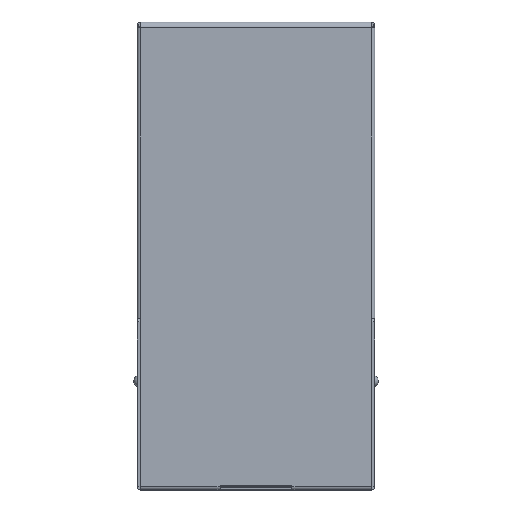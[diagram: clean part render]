
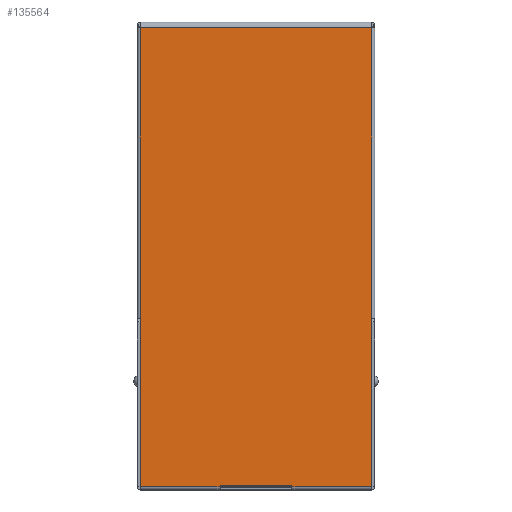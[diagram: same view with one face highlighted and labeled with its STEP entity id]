
A CAD part, top view. The second image highlights one B-rep face of the part: STEP entity #135564.
In plain terms, the highlighted planar face has unit normal (0, 0, 1) as drawn and (0, 0, -1) by its records, which use the part's own axes.
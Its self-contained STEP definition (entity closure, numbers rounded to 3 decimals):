
#131723=DIRECTION('',(0.,-1.,0.));
#131724=VECTOR('',#131723,5.);
#131725=CARTESIAN_POINT('',(-15.95,2.5,0.));
#131726=LINE('',#131725,#131724);
#131727=DIRECTION('',(-1.,0.,0.));
#131728=VECTOR('',#131727,0.1);
#131729=CARTESIAN_POINT('',(-15.95,-2.5,0.));
#131730=LINE('',#131729,#131728);
#131731=DIRECTION('',(-1.,0.,0.));
#131732=VECTOR('',#131731,11.7);
#131733=CARTESIAN_POINT('',(-4.35,8.05,0.));
#131734=LINE('',#131733,#131732);
#131743=DIRECTION('',(-1.,0.,0.));
#131744=VECTOR('',#131743,0.1);
#131745=CARTESIAN_POINT('',(-15.95,2.5,0.));
#131746=LINE('',#131745,#131744);
#131760=DIRECTION('',(0.,1.,0.));
#131761=VECTOR('',#131760,5.55);
#131762=CARTESIAN_POINT('',(-16.05,2.5,0.));
#131763=LINE('',#131762,#131761);
#131968=DIRECTION('',(0.,1.,0.));
#131969=VECTOR('',#131968,5.55);
#131970=CARTESIAN_POINT('',(-16.05,-8.05,0.));
#131971=LINE('',#131970,#131969);
#131981=DIRECTION('',(-1.,0.,0.));
#131982=VECTOR('',#131981,11.7);
#131983=CARTESIAN_POINT('',(-4.35,-8.05,0.));
#131984=LINE('',#131983,#131982);
#134190=DIRECTION('',(1.,0.,0.));
#134191=VECTOR('',#134190,20.2);
#134192=CARTESIAN_POINT('',(-4.35,8.05,0.));
#134193=LINE('',#134192,#134191);
#134300=DIRECTION('',(0.,-1.,0.));
#134301=VECTOR('',#134300,16.1);
#134302=CARTESIAN_POINT('',(15.85,8.05,0.));
#134303=LINE('',#134302,#134301);
#134331=DIRECTION('',(-1.,0.,0.));
#134332=VECTOR('',#134331,20.2);
#134333=CARTESIAN_POINT('',(15.85,-8.05,0.));
#134334=LINE('',#134333,#134332);
#134731=CARTESIAN_POINT('',(-15.95,2.5,0.));
#134732=CARTESIAN_POINT('',(-15.95,-2.5,0.));
#134733=VERTEX_POINT('',#134731);
#134734=VERTEX_POINT('',#134732);
#134735=CARTESIAN_POINT('',(-16.05,-2.5,0.));
#134736=VERTEX_POINT('',#134735);
#134737=CARTESIAN_POINT('',(-16.05,-8.05,0.));
#134738=VERTEX_POINT('',#134737);
#134739=CARTESIAN_POINT('',(-4.35,-8.05,0.));
#134740=VERTEX_POINT('',#134739);
#134741=CARTESIAN_POINT('',(15.85,-8.05,0.));
#134742=VERTEX_POINT('',#134741);
#134743=CARTESIAN_POINT('',(15.85,8.05,0.));
#134744=VERTEX_POINT('',#134743);
#134745=CARTESIAN_POINT('',(-4.35,8.05,0.));
#134746=VERTEX_POINT('',#134745);
#134747=CARTESIAN_POINT('',(-16.05,8.05,0.));
#134748=VERTEX_POINT('',#134747);
#134749=CARTESIAN_POINT('',(-16.05,2.5,0.));
#134750=VERTEX_POINT('',#134749);
#135537=CARTESIAN_POINT('',(0.,0.,0.));
#135538=DIRECTION('',(0.,0.,1.));
#135539=DIRECTION('',(1.,0.,0.));
#135540=AXIS2_PLACEMENT_3D('',#135537,#135538,#135539);
#135541=PLANE('',#135540);
#135543=ORIENTED_EDGE('',*,*,#135542,.T.);
#135545=ORIENTED_EDGE('',*,*,#135544,.T.);
#135547=ORIENTED_EDGE('',*,*,#135546,.F.);
#135549=ORIENTED_EDGE('',*,*,#135548,.F.);
#135551=ORIENTED_EDGE('',*,*,#135550,.F.);
#135553=ORIENTED_EDGE('',*,*,#135552,.F.);
#135555=ORIENTED_EDGE('',*,*,#135554,.F.);
#135557=ORIENTED_EDGE('',*,*,#135556,.T.);
#135559=ORIENTED_EDGE('',*,*,#135558,.F.);
#135561=ORIENTED_EDGE('',*,*,#135560,.F.);
#135562=EDGE_LOOP('',(#135543,#135545,#135547,#135549,#135551,#135553,#135555,
#135557,#135559,#135561));
#135563=FACE_OUTER_BOUND('',#135562,.F.);
#135564=ADVANCED_FACE('',(#135563),#135541,.F.);
#135542=EDGE_CURVE('',#134733,#134734,#131726,.T.);
#135544=EDGE_CURVE('',#134734,#134736,#131730,.T.);
#135546=EDGE_CURVE('',#134738,#134736,#131971,.T.);
#135548=EDGE_CURVE('',#134740,#134738,#131984,.T.);
#135550=EDGE_CURVE('',#134742,#134740,#134334,.T.);
#135552=EDGE_CURVE('',#134744,#134742,#134303,.T.);
#135554=EDGE_CURVE('',#134746,#134744,#134193,.T.);
#135556=EDGE_CURVE('',#134746,#134748,#131734,.T.);
#135558=EDGE_CURVE('',#134750,#134748,#131763,.T.);
#135560=EDGE_CURVE('',#134733,#134750,#131746,.T.);
